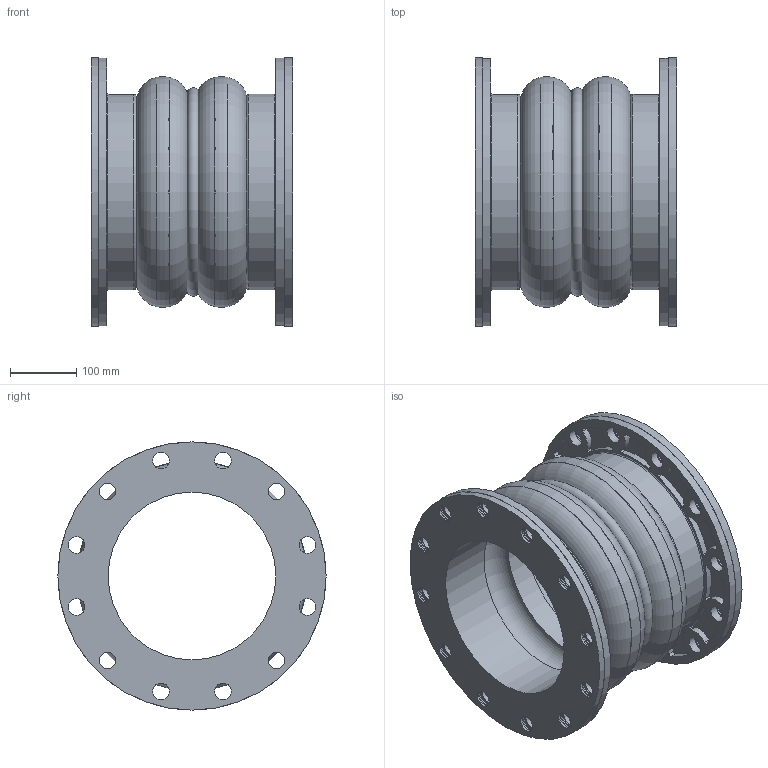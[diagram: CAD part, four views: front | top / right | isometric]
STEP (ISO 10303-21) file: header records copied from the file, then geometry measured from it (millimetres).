
FILE_DESCRIPTION((''),'2;1');
FILE_NAME('C:\2011_Work\Designs\Mercer\Stock Joints\450 Style\452\STEP\Style452 10x12.stp','2013-07-26T17:17:07',('mquog'),(''),'Autodesk Inventor 2011','Autodesk Inventor 2011','');
FILE_SCHEMA(('AUTOMOTIVE_DESIGN { 1 0 10303 214 1 1 1 1 }'));
Length unit declared in the file: inch
Products named in the file (4): Style452 10x12; 10DI450BUR150; 10_MBR; 452 10x12
Assembly tree (4 placements, depth 2):
  Style452 10x12
    10DI450BUR150  x2
    10_MBR
    452 10x12
Bounding box: 304.8 x 406.4 x 406.4 mm (x, y, z)
Volume: 9913137.6 mm3; surface area: 7041770 mm2
Topology: 38 solids, 38 shells, 713 faces, 1768 edges, 1153 vertices
Faces by surface type: cylinder 469, plane 142, torus 102
Full cylindrical faces by diameter (mm): 25.4 x168, 254 x3, 260.35 x6, 266.7 x12, 270.764 x6, 274.828 x6, 278.003 x3, 280.988 x2, 285.75 x5, 296.863 x2, 400.05 x12, 406.4 x4
Entity records: 15379 total; most frequent: DIRECTION 2840, CARTESIAN_POINT 2344, ORIENTED_EDGE 1940, AXIS2_PLACEMENT_3D 1323, EDGE_LOOP 1241, EDGE_CURVE 970, VERTEX_POINT 825, CIRCLE 778
